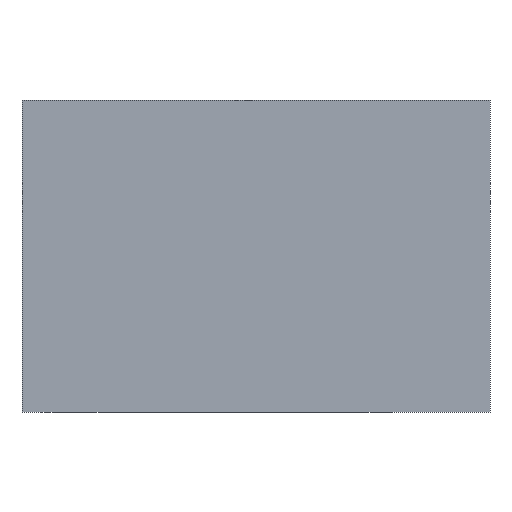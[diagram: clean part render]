
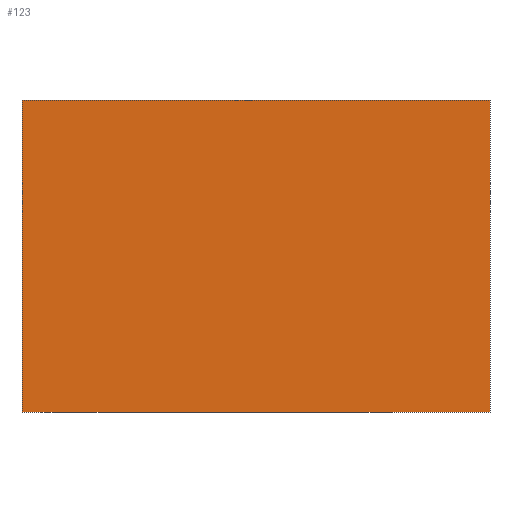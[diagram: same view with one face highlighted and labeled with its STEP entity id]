
A CAD part, front view. The second image highlights one B-rep face of the part: STEP entity #123.
In plain terms, the highlighted planar face has unit normal (0, -1, 0).
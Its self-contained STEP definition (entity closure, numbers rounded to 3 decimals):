
#14 = EDGE_CURVE ( 'NONE', #27, #194, #302, .T. ) ;
#15 = VERTEX_POINT ( 'NONE', #251 ) ;
#18 = ORIENTED_EDGE ( 'NONE', *, *, #14, .T. ) ;
#23 = EDGE_LOOP ( 'NONE', ( #126, #125, #188, #18 ) ) ;
#27 = VERTEX_POINT ( 'NONE', #297 ) ;
#123 = ADVANCED_FACE ( 'NONE', ( #409 ), #448, .F. ) ;
#124 = VERTEX_POINT ( 'NONE', #437 ) ;
#125 = ORIENTED_EDGE ( 'NONE', *, *, #127, .F. ) ;
#126 = ORIENTED_EDGE ( 'NONE', *, *, #196, .T. ) ;
#127 = EDGE_CURVE ( 'NONE', #15, #124, #445, .T. ) ;
#129 = EDGE_CURVE ( 'NONE', #27, #15, #440, .T. ) ;
#188 = ORIENTED_EDGE ( 'NONE', *, *, #129, .F. ) ;
#194 = VERTEX_POINT ( 'NONE', #517 ) ;
#196 = EDGE_CURVE ( 'NONE', #194, #124, #500, .T. ) ;
#251 = CARTESIAN_POINT ( 'NONE',  ( 12., 0., 8. ) ) ;
#297 = CARTESIAN_POINT ( 'NONE',  ( 0., 0., 8. ) ) ;
#299 = DIRECTION ( 'NONE',  ( 0., 0., -1. ) ) ;
#300 = VECTOR ( 'NONE', #299, 1000. ) ;
#301 = CARTESIAN_POINT ( 'NONE',  ( 0., 0., 8. ) ) ;
#302 = LINE ( 'NONE', #301, #300 ) ;
#409 = FACE_OUTER_BOUND ( 'NONE', #23, .T. ) ;
#433 = DIRECTION ( 'NONE',  ( 1., 0., 0. ) ) ;
#434 = VECTOR ( 'NONE', #433, 1000. ) ;
#435 = CARTESIAN_POINT ( 'NONE',  ( 0., 0., 8. ) ) ;
#436 = DIRECTION ( 'NONE',  ( 0., 1., 0. ) ) ;
#437 = CARTESIAN_POINT ( 'NONE',  ( 12., 0., 0. ) ) ;
#438 = CARTESIAN_POINT ( 'NONE',  ( 12., 0., 8. ) ) ;
#439 = DIRECTION ( 'NONE',  ( 0., 0., 1. ) ) ;
#440 = LINE ( 'NONE', #435, #434 ) ;
#442 = CARTESIAN_POINT ( 'NONE',  ( 0., 0., 8. ) ) ;
#443 = DIRECTION ( 'NONE',  ( 0., 0., -1. ) ) ;
#444 = VECTOR ( 'NONE', #443, 1000. ) ;
#445 = LINE ( 'NONE', #438, #444 ) ;
#447 = AXIS2_PLACEMENT_3D ( 'NONE', #442, #436, #439 ) ;
#448 = PLANE ( 'NONE',  #447 ) ;
#497 = DIRECTION ( 'NONE',  ( 1., 0., 0. ) ) ;
#498 = VECTOR ( 'NONE', #497, 1000. ) ;
#499 = CARTESIAN_POINT ( 'NONE',  ( 0., 0., 0. ) ) ;
#500 = LINE ( 'NONE', #499, #498 ) ;
#517 = CARTESIAN_POINT ( 'NONE',  ( 0., 0., 0. ) ) ;
